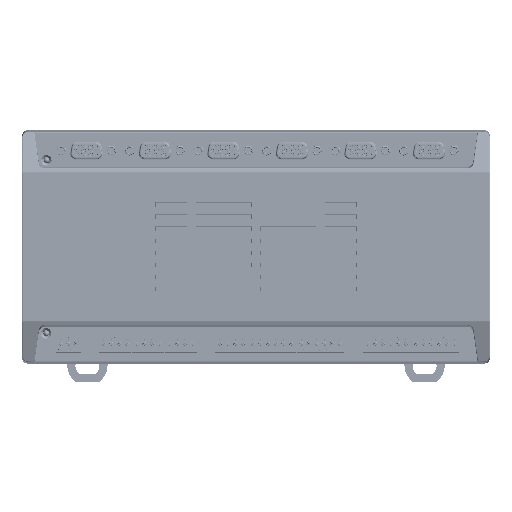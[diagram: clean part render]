
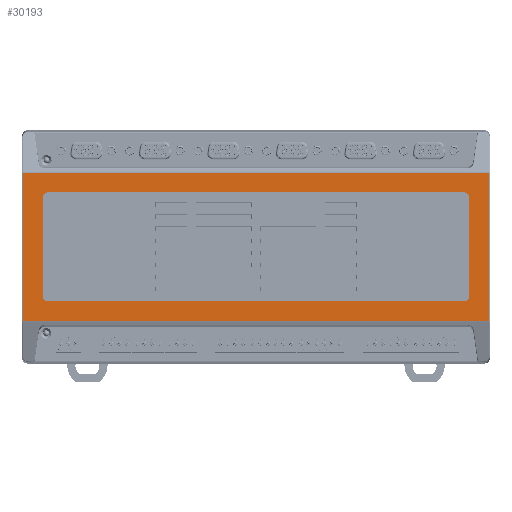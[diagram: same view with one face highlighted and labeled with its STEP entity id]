
A CAD part, top view. The second image highlights one B-rep face of the part: STEP entity #30193.
In plain terms, the highlighted planar face has unit normal (0, 0, 1).
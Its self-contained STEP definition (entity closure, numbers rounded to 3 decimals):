
#1370 = VECTOR ( 'NONE', #32123, 1000. ) ;
#1434 = LINE ( 'NONE', #40114, #25695 ) ;
#2365 = LINE ( 'NONE', #66057, #63306 ) ;
#2455 = CARTESIAN_POINT ( 'NONE',  ( 228., 18., 17. ) ) ;
#3176 = ORIENTED_EDGE ( 'NONE', *, *, #100050, .T. ) ;
#3502 = ORIENTED_EDGE ( 'NONE', *, *, #76900, .T. ) ;
#3939 = ORIENTED_EDGE ( 'NONE', *, *, #64001, .T. ) ;
#4278 = LINE ( 'NONE', #60467, #97552 ) ;
#4536 = CARTESIAN_POINT ( 'NONE',  ( -4.15, 91.827, 17. ) ) ;
#4643 = LINE ( 'NONE', #69108, #52831 ) ;
#5354 = CARTESIAN_POINT ( 'NONE',  ( 227.65, 91.827, 17. ) ) ;
#10207 = CARTESIAN_POINT ( 'NONE',  ( 8., 80., 17. ) ) ;
#12091 = EDGE_LOOP ( 'NONE', ( #3502, #62468, #3176, #46634 ) ) ;
#12280 = CARTESIAN_POINT ( 'NONE',  ( -4.15, 18.173, 17. ) ) ;
#13052 = EDGE_CURVE ( 'NONE', #24805, #94906, #63293, .T. ) ;
#13313 = DIRECTION ( 'NONE',  ( 0., 0., -1. ) ) ;
#13971 = VERTEX_POINT ( 'NONE', #80061 ) ;
#15943 = DIRECTION ( 'NONE',  ( -1., 0., 0. ) ) ;
#16222 = EDGE_CURVE ( 'NONE', #75756, #24203, #4278, .T. ) ;
#19445 = DIRECTION ( 'NONE',  ( 1., 0., 0. ) ) ;
#20311 = VERTEX_POINT ( 'NONE', #96522 ) ;
#20886 = DIRECTION ( 'NONE',  ( 1., 0., 0. ) ) ;
#21103 = LINE ( 'NONE', #112284, #66220 ) ;
#23892 = CARTESIAN_POINT ( 'NONE',  ( 6., 80., 17. ) ) ;
#24203 = VERTEX_POINT ( 'NONE', #42653 ) ;
#24208 = DIRECTION ( 'NONE',  ( 0., 1., 0. ) ) ;
#24470 = CIRCLE ( 'NONE', #105508, 2. ) ;
#24590 = CARTESIAN_POINT ( 'NONE',  ( 215.5, 30., 17. ) ) ;
#24805 = VERTEX_POINT ( 'NONE', #12280 ) ;
#25695 = VECTOR ( 'NONE', #49118, 1000. ) ;
#27455 = CARTESIAN_POINT ( 'NONE',  ( 215.5, 80., 17. ) ) ;
#27714 = ORIENTED_EDGE ( 'NONE', *, *, #75513, .T. ) ;
#29159 = VERTEX_POINT ( 'NONE', #52700 ) ;
#30193 = ADVANCED_FACE ( 'NONE', ( #74199, #50286 ), #110856, .T. ) ;
#32123 = DIRECTION ( 'NONE',  ( 0., -1., 0. ) ) ;
#33745 = DIRECTION ( 'NONE',  ( 1., 0., 0. ) ) ;
#35870 = DIRECTION ( 'NONE',  ( 0., 1., 0. ) ) ;
#36536 = VECTOR ( 'NONE', #35870, 1000. ) ;
#36602 = DIRECTION ( 'NONE',  ( 1., 0., 0. ) ) ;
#39862 = AXIS2_PLACEMENT_3D ( 'NONE', #27455, #90494, #36602 ) ;
#40114 = CARTESIAN_POINT ( 'NONE',  ( 228., 82., 17. ) ) ;
#40743 = VERTEX_POINT ( 'NONE', #111396 ) ;
#41213 = CARTESIAN_POINT ( 'NONE',  ( 217.5, 18., 17. ) ) ;
#42454 = CIRCLE ( 'NONE', #52043, 2. ) ;
#42653 = CARTESIAN_POINT ( 'NONE',  ( 227.65, 18.173, 17. ) ) ;
#44139 = AXIS2_PLACEMENT_3D ( 'NONE', #2455, #74855, #20886 ) ;
#46634 = ORIENTED_EDGE ( 'NONE', *, *, #13052, .F. ) ;
#49118 = DIRECTION ( 'NONE',  ( 1., 0., 0. ) ) ;
#49456 = VERTEX_POINT ( 'NONE', #65457 ) ;
#49650 = LINE ( 'NONE', #41213, #1370 ) ;
#50286 = FACE_OUTER_BOUND ( 'NONE', #12091, .T. ) ;
#50357 = ORIENTED_EDGE ( 'NONE', *, *, #75710, .T. ) ;
#51901 = CARTESIAN_POINT ( 'NONE',  ( 228., 28., 17. ) ) ;
#52043 = AXIS2_PLACEMENT_3D ( 'NONE', #24590, #87621, #33745 ) ;
#52256 = EDGE_CURVE ( 'NONE', #63054, #108531, #89225, .T. ) ;
#52436 = EDGE_CURVE ( 'NONE', #49456, #63054, #1434, .T. ) ;
#52700 = CARTESIAN_POINT ( 'NONE',  ( 215.5, 28., 17. ) ) ;
#52831 = VECTOR ( 'NONE', #24208, 1000. ) ;
#58540 = DIRECTION ( 'NONE',  ( -1., 0., 0. ) ) ;
#59669 = ORIENTED_EDGE ( 'NONE', *, *, #75030, .T. ) ;
#59873 = EDGE_CURVE ( 'NONE', #13971, #29159, #42454, .T. ) ;
#60467 = CARTESIAN_POINT ( 'NONE',  ( 227.65, 113., 17. ) ) ;
#61711 = VERTEX_POINT ( 'NONE', #23892 ) ;
#62468 = ORIENTED_EDGE ( 'NONE', *, *, #16222, .F. ) ;
#62626 = CARTESIAN_POINT ( 'NONE',  ( -4.15, -3., 17. ) ) ;
#63054 = VERTEX_POINT ( 'NONE', #81851 ) ;
#63293 = LINE ( 'NONE', #62626, #36536 ) ;
#63306 = VECTOR ( 'NONE', #111475, 1000. ) ;
#63505 = EDGE_LOOP ( 'NONE', ( #105629, #63863, #3939, #91140, #100627, #50357, #59669, #27714 ) ) ;
#63863 = ORIENTED_EDGE ( 'NONE', *, *, #52256, .T. ) ;
#64001 = EDGE_CURVE ( 'NONE', #108531, #13971, #49650, .T. ) ;
#65457 = CARTESIAN_POINT ( 'NONE',  ( 8., 82., 17. ) ) ;
#66057 = CARTESIAN_POINT ( 'NONE',  ( 228., 18.173, 17. ) ) ;
#66220 = VECTOR ( 'NONE', #58540, 1000. ) ;
#67459 = CARTESIAN_POINT ( 'NONE',  ( 8., 30., 17. ) ) ;
#69108 = CARTESIAN_POINT ( 'NONE',  ( 6., 18., 17. ) ) ;
#71785 = VECTOR ( 'NONE', #15943, 1000. ) ;
#73420 = DIRECTION ( 'NONE',  ( 0., 0., -1. ) ) ;
#74199 = FACE_BOUND ( 'NONE', #63505, .T. ) ;
#74855 = DIRECTION ( 'NONE',  ( 0., 0., 1. ) ) ;
#75030 = EDGE_CURVE ( 'NONE', #20311, #61711, #4643, .T. ) ;
#75513 = EDGE_CURVE ( 'NONE', #61711, #49456, #24470, .T. ) ;
#75710 = EDGE_CURVE ( 'NONE', #40743, #20311, #100547, .T. ) ;
#75756 = VERTEX_POINT ( 'NONE', #5354 ) ;
#76495 = DIRECTION ( 'NONE',  ( 1., 0., 0. ) ) ;
#76900 = EDGE_CURVE ( 'NONE', #24805, #24203, #2365, .T. ) ;
#78768 = EDGE_CURVE ( 'NONE', #29159, #40743, #95704, .T. ) ;
#80061 = CARTESIAN_POINT ( 'NONE',  ( 217.5, 30., 17. ) ) ;
#81851 = CARTESIAN_POINT ( 'NONE',  ( 215.5, 82., 17. ) ) ;
#85651 = CARTESIAN_POINT ( 'NONE',  ( 217.5, 80., 17. ) ) ;
#87621 = DIRECTION ( 'NONE',  ( 0., 0., -1. ) ) ;
#89225 = CIRCLE ( 'NONE', #39862, 2. ) ;
#90494 = DIRECTION ( 'NONE',  ( 0., 0., -1. ) ) ;
#91140 = ORIENTED_EDGE ( 'NONE', *, *, #59873, .T. ) ;
#94906 = VERTEX_POINT ( 'NONE', #4536 ) ;
#95704 = LINE ( 'NONE', #51901, #71785 ) ;
#96246 = DIRECTION ( 'NONE',  ( 0., -1., 0. ) ) ;
#96522 = CARTESIAN_POINT ( 'NONE',  ( 6., 30., 17. ) ) ;
#97552 = VECTOR ( 'NONE', #96246, 1000. ) ;
#100050 = EDGE_CURVE ( 'NONE', #75756, #94906, #21103, .T. ) ;
#100547 = CIRCLE ( 'NONE', #102589, 2. ) ;
#100627 = ORIENTED_EDGE ( 'NONE', *, *, #78768, .T. ) ;
#102589 = AXIS2_PLACEMENT_3D ( 'NONE', #67459, #13313, #76495 ) ;
#105508 = AXIS2_PLACEMENT_3D ( 'NONE', #10207, #73420, #19445 ) ;
#105629 = ORIENTED_EDGE ( 'NONE', *, *, #52436, .T. ) ;
#108531 = VERTEX_POINT ( 'NONE', #85651 ) ;
#110856 = PLANE ( 'NONE',  #44139 ) ;
#111396 = CARTESIAN_POINT ( 'NONE',  ( 8., 28., 17. ) ) ;
#111475 = DIRECTION ( 'NONE',  ( 1., 0., 0. ) ) ;
#112284 = CARTESIAN_POINT ( 'NONE',  ( 228., 91.827, 17. ) ) ;
